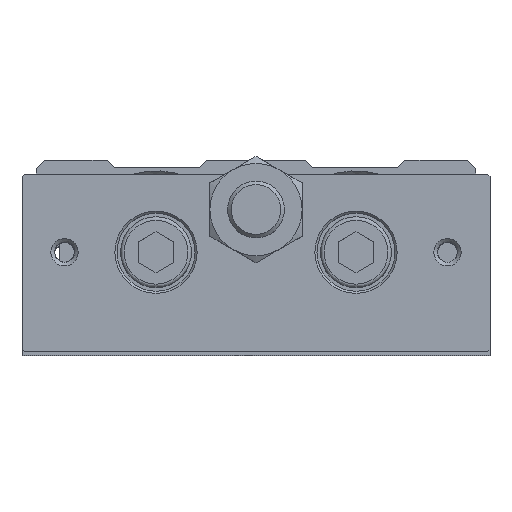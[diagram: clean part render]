
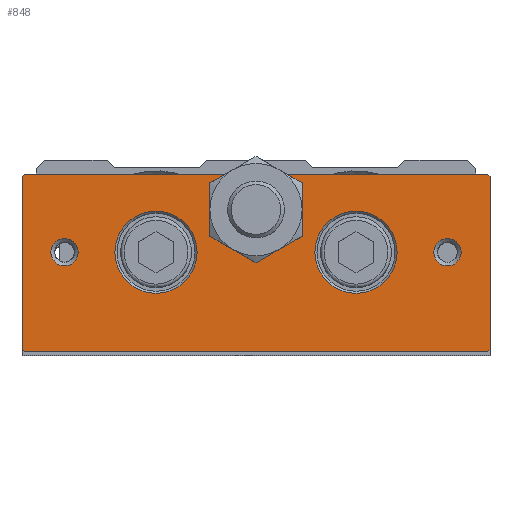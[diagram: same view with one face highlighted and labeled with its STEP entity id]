
A CAD part, top view. The second image highlights one B-rep face of the part: STEP entity #848.
In plain terms, the highlighted planar face has unit normal (0, 0, 1).
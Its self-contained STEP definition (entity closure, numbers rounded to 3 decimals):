
#629=CARTESIAN_POINT('',(-32.7,-14.5,195.0));
#630=VERTEX_POINT('',#629);
#637=CARTESIAN_POINT('',(-33.0,-14.2,195.0));
#638=VERTEX_POINT('',#637);
#639=CARTESIAN_POINT('',(-32.7,-14.5,195.0));
#640=DIRECTION('',(-0.707,0.707,0.0));
#641=VECTOR('',#640,0.424);
#642=LINE('',#639,#641);
#643=EDGE_CURVE('',#630,#638,#642,.T.);
#660=CARTESIAN_POINT('',(-33.0,10.2,195.0));
#661=VERTEX_POINT('',#660);
#662=CARTESIAN_POINT('',(-33.0,10.2,195.0));
#663=DIRECTION('',(0.0,-1.0,0.0));
#664=VECTOR('',#663,24.4);
#665=LINE('',#662,#664);
#666=EDGE_CURVE('',#661,#638,#665,.T.);
#696=CARTESIAN_POINT('',(0.0,-14.5,195.0));
#697=DIRECTION('',(0.0,0.0,1.0));
#698=DIRECTION('',(1.0,0.0,0.0));
#699=AXIS2_PLACEMENT_3D('',#696,#697,#698);
#700=PLANE('',#699);
#701=ORIENTED_EDGE('',*,*,#643,.F.);
#702=CARTESIAN_POINT('',(32.7,-14.5,195.0));
#703=VERTEX_POINT('',#702);
#704=CARTESIAN_POINT('',(-32.7,-14.5,195.0));
#705=DIRECTION('',(1.0,0.0,0.0));
#706=VECTOR('',#705,65.4);
#707=LINE('',#704,#706);
#708=EDGE_CURVE('',#630,#703,#707,.T.);
#709=ORIENTED_EDGE('',*,*,#708,.T.);
#710=CARTESIAN_POINT('',(33.0,-14.2,195.0));
#711=VERTEX_POINT('',#710);
#712=CARTESIAN_POINT('',(33.0,-14.2,195.0));
#713=DIRECTION('',(-0.707,-0.707,0.0));
#714=VECTOR('',#713,0.424);
#715=LINE('',#712,#714);
#716=EDGE_CURVE('',#711,#703,#715,.T.);
#717=ORIENTED_EDGE('',*,*,#716,.F.);
#718=CARTESIAN_POINT('',(33.0,10.2,195.0));
#719=VERTEX_POINT('',#718);
#720=CARTESIAN_POINT('',(33.0,-14.2,195.0));
#721=DIRECTION('',(0.0,1.0,0.0));
#722=VECTOR('',#721,24.4);
#723=LINE('',#720,#722);
#724=EDGE_CURVE('',#711,#719,#723,.T.);
#725=ORIENTED_EDGE('',*,*,#724,.T.);
#726=CARTESIAN_POINT('',(32.7,10.5,195.0));
#727=VERTEX_POINT('',#726);
#728=CARTESIAN_POINT('',(32.7,10.5,195.0));
#729=DIRECTION('',(0.707,-0.707,0.0));
#730=VECTOR('',#729,0.424);
#731=LINE('',#728,#730);
#732=EDGE_CURVE('',#727,#719,#731,.T.);
#733=ORIENTED_EDGE('',*,*,#732,.F.);
#734=CARTESIAN_POINT('',(4.153,10.5,195.0));
#735=VERTEX_POINT('',#734);
#736=CARTESIAN_POINT('',(32.7,10.5,195.0));
#737=DIRECTION('',(-1.0,0.0,0.0));
#738=VECTOR('',#737,28.547);
#739=LINE('',#736,#738);
#740=EDGE_CURVE('',#727,#735,#739,.T.);
#741=ORIENTED_EDGE('',*,*,#740,.T.);
#742=CARTESIAN_POINT('',(6.5,5.5,195.0));
#743=VERTEX_POINT('',#742);
#744=CARTESIAN_POINT('',(0.0,5.5,195.0));
#745=DIRECTION('',(0.0,0.0,1.0));
#746=DIRECTION('',(0.0,1.0,0.0));
#747=AXIS2_PLACEMENT_3D('',#744,#745,#746);
#748=CIRCLE('',#747,6.5);
#749=EDGE_CURVE('',#743,#735,#748,.T.);
#750=ORIENTED_EDGE('',*,*,#749,.F.);
#751=CARTESIAN_POINT('',(3.25,-0.129,195.0));
#752=VERTEX_POINT('',#751);
#753=CARTESIAN_POINT('',(0.0,5.5,195.0));
#754=DIRECTION('',(0.0,0.0,1.0));
#755=DIRECTION('',(0.0,1.0,0.0));
#756=AXIS2_PLACEMENT_3D('',#753,#754,#755);
#757=CIRCLE('',#756,6.5);
#758=EDGE_CURVE('',#752,#743,#757,.T.);
#759=ORIENTED_EDGE('',*,*,#758,.F.);
#760=CARTESIAN_POINT('',(-3.25,-0.129,195.0));
#761=VERTEX_POINT('',#760);
#762=CARTESIAN_POINT('',(0.0,5.5,195.0));
#763=DIRECTION('',(0.0,0.0,1.0));
#764=DIRECTION('',(0.0,1.0,0.0));
#765=AXIS2_PLACEMENT_3D('',#762,#763,#764);
#766=CIRCLE('',#765,6.5);
#767=EDGE_CURVE('',#761,#752,#766,.T.);
#768=ORIENTED_EDGE('',*,*,#767,.F.);
#769=CARTESIAN_POINT('',(-6.5,5.5,195.0));
#770=VERTEX_POINT('',#769);
#771=CARTESIAN_POINT('',(0.0,5.5,195.0));
#772=DIRECTION('',(0.0,0.0,1.0));
#773=DIRECTION('',(0.0,1.0,0.0));
#774=AXIS2_PLACEMENT_3D('',#771,#772,#773);
#775=CIRCLE('',#774,6.5);
#776=EDGE_CURVE('',#770,#761,#775,.T.);
#777=ORIENTED_EDGE('',*,*,#776,.F.);
#778=CARTESIAN_POINT('',(-4.153,10.5,195.0));
#779=VERTEX_POINT('',#778);
#780=CARTESIAN_POINT('',(0.0,5.5,195.0));
#781=DIRECTION('',(0.0,0.0,1.0));
#782=DIRECTION('',(0.0,1.0,0.0));
#783=AXIS2_PLACEMENT_3D('',#780,#781,#782);
#784=CIRCLE('',#783,6.5);
#785=EDGE_CURVE('',#779,#770,#784,.T.);
#786=ORIENTED_EDGE('',*,*,#785,.F.);
#787=CARTESIAN_POINT('',(-32.7,10.5,195.0));
#788=VERTEX_POINT('',#787);
#789=CARTESIAN_POINT('',(-4.153,10.5,195.0));
#790=DIRECTION('',(-1.0,0.0,0.0));
#791=VECTOR('',#790,28.547);
#792=LINE('',#789,#791);
#793=EDGE_CURVE('',#779,#788,#792,.T.);
#794=ORIENTED_EDGE('',*,*,#793,.T.);
#795=CARTESIAN_POINT('',(-33.0,10.2,195.0));
#796=DIRECTION('',(0.707,0.707,0.0));
#797=VECTOR('',#796,0.424);
#798=LINE('',#795,#797);
#799=EDGE_CURVE('',#661,#788,#798,.T.);
#800=ORIENTED_EDGE('',*,*,#799,.F.);
#801=ORIENTED_EDGE('',*,*,#666,.T.);
#802=EDGE_LOOP('',(#701,#709,#717,#725,#733,#741,#750,#759,#768,#777,#786,#794,#800,#801));
#803=FACE_OUTER_BOUND('',#802,.T.);
#804=CARTESIAN_POINT('',(19.9,-0.5,195.0));
#805=VERTEX_POINT('',#804);
#806=CARTESIAN_POINT('',(14.1,-0.5,195.0));
#807=DIRECTION('',(0.0,0.0,1.0));
#808=DIRECTION('',(-1.0,0.0,0.0));
#809=AXIS2_PLACEMENT_3D('',#806,#807,#808);
#810=CIRCLE('',#809,5.8);
#811=EDGE_CURVE('',#805,#805,#810,.T.);
#812=ORIENTED_EDGE('',*,*,#811,.F.);
#813=EDGE_LOOP('',(#812));
#814=FACE_BOUND('',#813,.T.);
#815=CARTESIAN_POINT('',(28.925,-0.5,195.0));
#816=VERTEX_POINT('',#815);
#817=CARTESIAN_POINT('',(27.,-0.5,195.0));
#818=DIRECTION('',(0.0,0.0,1.0));
#819=DIRECTION('',(-1.0,0.0,0.0));
#820=AXIS2_PLACEMENT_3D('',#817,#818,#819);
#821=CIRCLE('',#820,1.925);
#822=EDGE_CURVE('',#816,#816,#821,.T.);
#823=ORIENTED_EDGE('',*,*,#822,.F.);
#824=EDGE_LOOP('',(#823));
#825=FACE_BOUND('',#824,.T.);
#826=CARTESIAN_POINT('',(-25.075,-0.5,195.0));
#827=VERTEX_POINT('',#826);
#828=CARTESIAN_POINT('',(-27.0,-0.5,195.0));
#829=DIRECTION('',(0.0,0.0,1.0));
#830=DIRECTION('',(-1.0,0.0,0.0));
#831=AXIS2_PLACEMENT_3D('',#828,#829,#830);
#832=CIRCLE('',#831,1.925);
#833=EDGE_CURVE('',#827,#827,#832,.T.);
#834=ORIENTED_EDGE('',*,*,#833,.F.);
#835=EDGE_LOOP('',(#834));
#836=FACE_BOUND('',#835,.T.);
#837=CARTESIAN_POINT('',(-8.3,-0.5,195.0));
#838=VERTEX_POINT('',#837);
#839=CARTESIAN_POINT('',(-14.1,-0.5,195.0));
#840=DIRECTION('',(0.0,0.0,1.0));
#841=DIRECTION('',(-1.0,0.0,0.0));
#842=AXIS2_PLACEMENT_3D('',#839,#840,#841);
#843=CIRCLE('',#842,5.8);
#844=EDGE_CURVE('',#838,#838,#843,.T.);
#845=ORIENTED_EDGE('',*,*,#844,.F.);
#846=EDGE_LOOP('',(#845));
#847=FACE_BOUND('',#846,.T.);
#848=ADVANCED_FACE('',(#803,#814,#825,#836,#847),#700,.T.);
